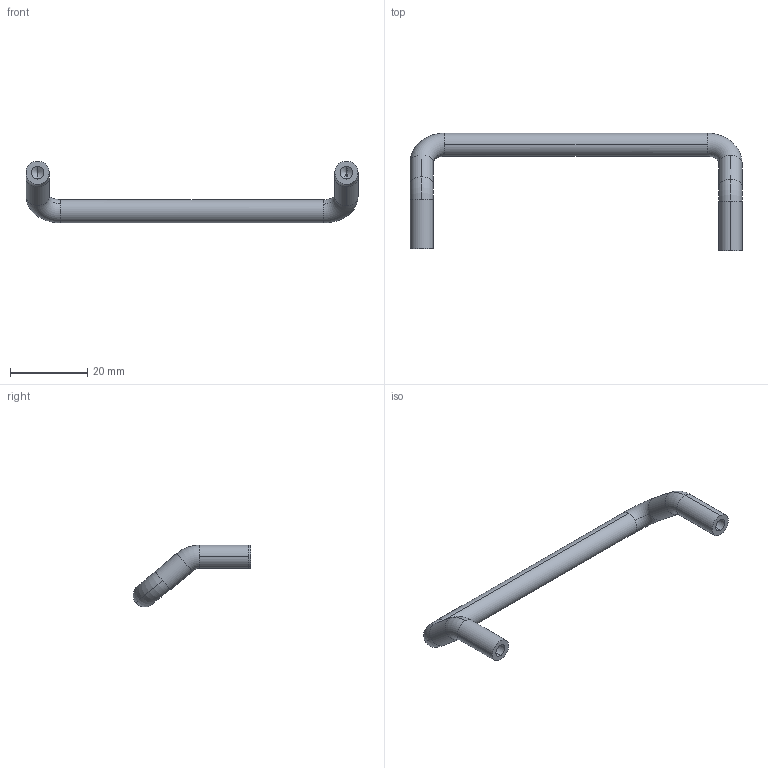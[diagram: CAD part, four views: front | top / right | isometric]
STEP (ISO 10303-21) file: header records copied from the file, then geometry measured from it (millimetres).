
FILE_DESCRIPTION (( 'STEP AP203' ), '1' );
FILE_NAME ('E07-53080.STEP', '2025-01-06T08:05:05', ( '' ), ( '' ), 'SwSTEP 2.0', 'SolidWorks 2021', '' );
FILE_SCHEMA (( 'CONFIG_CONTROL_DESIGN' ));
Length unit declared in the file: millimetre
Products named in the file (1): E07-53080
Bounding box: 86 x 30.5 x 16 mm (x, y, z)
Volume: 3674.6 mm3; surface area: 2828.8 mm2
Topology: 1 solids, 1 shells, 28 faces, 70 edges, 42 vertices
Faces by surface type: cylinder 14, torus 8, cone 4, plane 2
Entity records: 907 total; most frequent: DIRECTION 172, CARTESIAN_POINT 137, ORIENTED_EDGE 132, AXIS2_PLACEMENT_3D 77, EDGE_CURVE 66, CIRCLE 48, VERTEX_POINT 42, EDGE_LOOP 30
